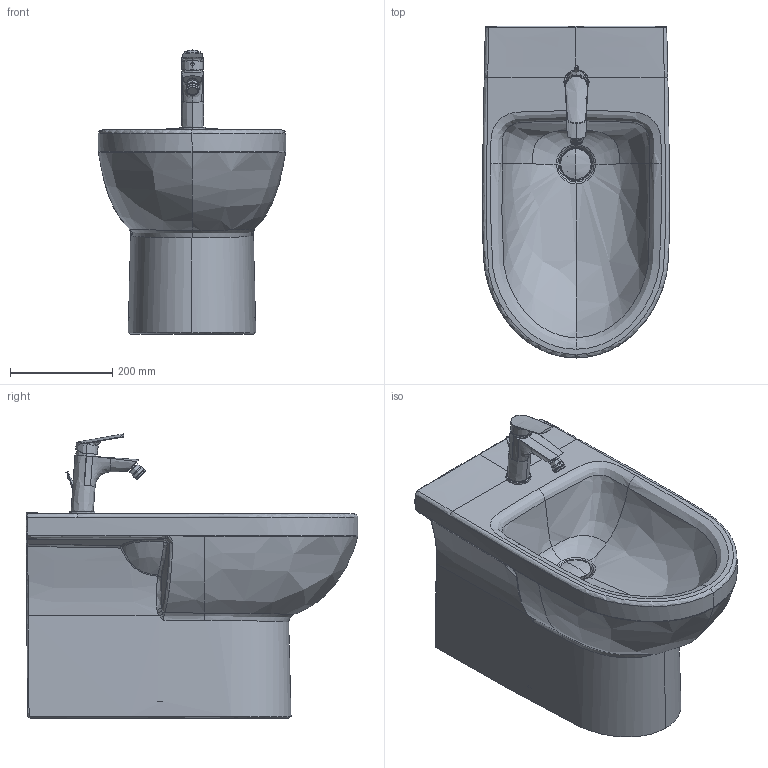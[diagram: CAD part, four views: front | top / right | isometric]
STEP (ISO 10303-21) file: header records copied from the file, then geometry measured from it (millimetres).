
FILE_DESCRIPTION(/* description */ (''),/* implementation_level */ '2;1');
FILE_NAME(/* name */ '229710',/* time_stamp */ '2021-09-20T14:05:38+02:00',/* author */ (''),/* organization */ (''),/* preprocessor_version */ 'ST-DEVELOPER v15',/* originating_system */ '',/* authorisation */ '');
FILE_SCHEMA (('AUTOMOTIVE_DESIGN'));
Length unit declared in the file: millimetre
Products named in the file (1): Document
Bounding box: 366.53 x 649.99 x 556.31 mm (x, y, z)
Volume: 20602747.6 mm3; surface area: 1507995.9 mm2
Topology: 6 solids, 8 shells, 628 faces, 1510 edges, 892 vertices
Faces by surface type: bspline 555, plane 73
Entity records: 76153 total; most frequent: CARTESIAN_POINT 67191, ORIENTED_EDGE 2964, EDGE_CURVE 1491, B_SPLINE_CURVE_WITH_KNOTS 1102, VERTEX_POINT 892, EDGE_LOOP 662, ADVANCED_FACE 628, FACE_OUTER_BOUND 628
